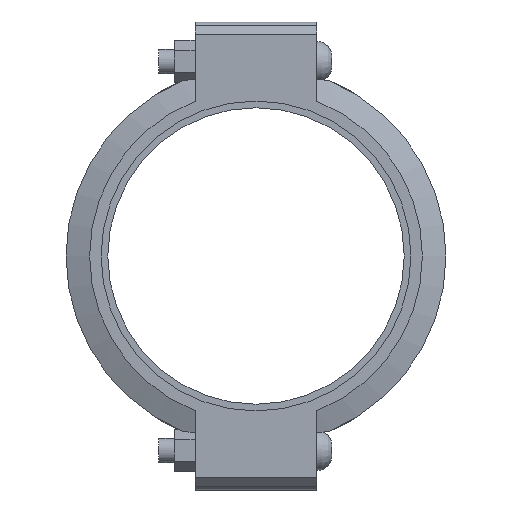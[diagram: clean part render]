
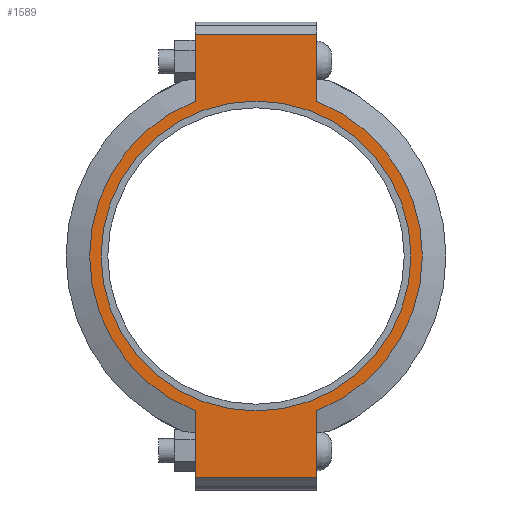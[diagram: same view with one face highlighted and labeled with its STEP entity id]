
A CAD part, left-side view. The second image highlights one B-rep face of the part: STEP entity #1589.
In plain terms, the highlighted planar face has unit normal (-1, 0, 0) as drawn and (0, 0, 1) by its records, which use the part's own axes.
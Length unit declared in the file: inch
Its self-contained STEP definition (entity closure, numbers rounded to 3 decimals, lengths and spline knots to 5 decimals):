
#160=LINE('',#2745,#249);
#171=LINE('',#2796,#260);
#177=LINE('',#2822,#266);
#179=LINE('',#2825,#268);
#180=LINE('',#2830,#269);
#181=LINE('',#2831,#270);
#249=VECTOR('',#2241,0.3937);
#260=VECTOR('',#2272,0.3937);
#266=VECTOR('',#2290,0.3937);
#268=VECTOR('',#2294,0.3937);
#269=VECTOR('',#2299,0.3937);
#270=VECTOR('',#2300,0.3937);
#332=FACE_BOUND('',#509,.T.);
#400=FACE_OUTER_BOUND('',#508,.T.);
#508=EDGE_LOOP('',(#1284,#1285,#1286,#1287,#1288,#1289,#1290,#1291));
#509=EDGE_LOOP('',(#1292));
#591=CIRCLE('',#1817,6.375);
#615=CIRCLE('',#1869,6.84375);
#616=CIRCLE('',#1870,6.84375);
#687=VERTEX_POINT('',#2571);
#728=VERTEX_POINT('',#2742);
#729=VERTEX_POINT('',#2744);
#746=VERTEX_POINT('',#2791);
#747=VERTEX_POINT('',#2795);
#754=VERTEX_POINT('',#2817);
#755=VERTEX_POINT('',#2821);
#756=VERTEX_POINT('',#2827);
#757=VERTEX_POINT('',#2829);
#851=EDGE_CURVE('',#687,#687,#591,.T.);
#908=EDGE_CURVE('',#729,#728,#160,.T.);
#929=EDGE_CURVE('',#747,#746,#171,.T.);
#940=EDGE_CURVE('',#755,#754,#177,.T.);
#942=EDGE_CURVE('',#755,#728,#179,.T.);
#943=EDGE_CURVE('',#754,#756,#615,.T.);
#944=EDGE_CURVE('',#756,#757,#180,.T.);
#945=EDGE_CURVE('',#747,#757,#181,.T.);
#946=EDGE_CURVE('',#746,#729,#616,.T.);
#1284=ORIENTED_EDGE('',*,*,#942,.F.);
#1285=ORIENTED_EDGE('',*,*,#940,.T.);
#1286=ORIENTED_EDGE('',*,*,#943,.T.);
#1287=ORIENTED_EDGE('',*,*,#944,.T.);
#1288=ORIENTED_EDGE('',*,*,#945,.F.);
#1289=ORIENTED_EDGE('',*,*,#929,.T.);
#1290=ORIENTED_EDGE('',*,*,#946,.T.);
#1291=ORIENTED_EDGE('',*,*,#908,.T.);
#1292=ORIENTED_EDGE('',*,*,#851,.T.);
#1429=PLANE('',#1868);
#1589=ADVANCED_FACE('',(#400,#332),#1429,.T.);
#1817=AXIS2_PLACEMENT_3D('',#2573,#2131,#2132);
#1868=AXIS2_PLACEMENT_3D('',#2826,#2295,#2296);
#1869=AXIS2_PLACEMENT_3D('',#2828,#2297,#2298);
#1870=AXIS2_PLACEMENT_3D('',#2832,#2301,#2302);
#2131=DIRECTION('center_axis',(0.,0.,-1.));
#2132=DIRECTION('ref_axis',(-1.,0.,0.));
#2241=DIRECTION('',(-1.,0.,0.));
#2272=DIRECTION('',(-1.,0.,0.));
#2290=DIRECTION('',(1.,0.,0.));
#2294=DIRECTION('',(0.,1.,0.));
#2295=DIRECTION('center_axis',(0.,0.,1.));
#2296=DIRECTION('ref_axis',(1.,0.,0.));
#2297=DIRECTION('center_axis',(0.,0.,1.));
#2298=DIRECTION('ref_axis',(-1.,0.,0.));
#2299=DIRECTION('',(1.,0.,0.));
#2300=DIRECTION('',(0.,-1.,0.));
#2301=DIRECTION('center_axis',(0.,0.,1.));
#2302=DIRECTION('ref_axis',(-1.,0.,0.));
#2571=CARTESIAN_POINT('',(6.375,0.,1.315));
#2573=CARTESIAN_POINT('Origin',(0.,0.,1.315));
#2742=CARTESIAN_POINT('',(-9.125,2.5,1.315));
#2744=CARTESIAN_POINT('',(-6.37079,2.5,1.315));
#2745=CARTESIAN_POINT('',(9.625,2.5,1.315));
#2791=CARTESIAN_POINT('',(6.37079,2.5,1.315));
#2795=CARTESIAN_POINT('',(9.125,2.5,1.315));
#2796=CARTESIAN_POINT('',(9.625,2.5,1.315));
#2817=CARTESIAN_POINT('',(-6.37079,-2.5,1.315));
#2821=CARTESIAN_POINT('',(-9.125,-2.5,1.315));
#2822=CARTESIAN_POINT('',(-9.625,-2.5,1.315));
#2825=CARTESIAN_POINT('',(-9.125,1.25,1.315));
#2826=CARTESIAN_POINT('Origin',(0.,0.,
1.315));
#2827=CARTESIAN_POINT('',(6.37079,-2.5,1.315));
#2828=CARTESIAN_POINT('Origin',(0.,0.,1.315));
#2829=CARTESIAN_POINT('',(9.125,-2.5,1.315));
#2830=CARTESIAN_POINT('',(-9.625,-2.5,1.315));
#2831=CARTESIAN_POINT('',(9.125,-1.25,1.315));
#2832=CARTESIAN_POINT('Origin',(0.,0.,1.315));
